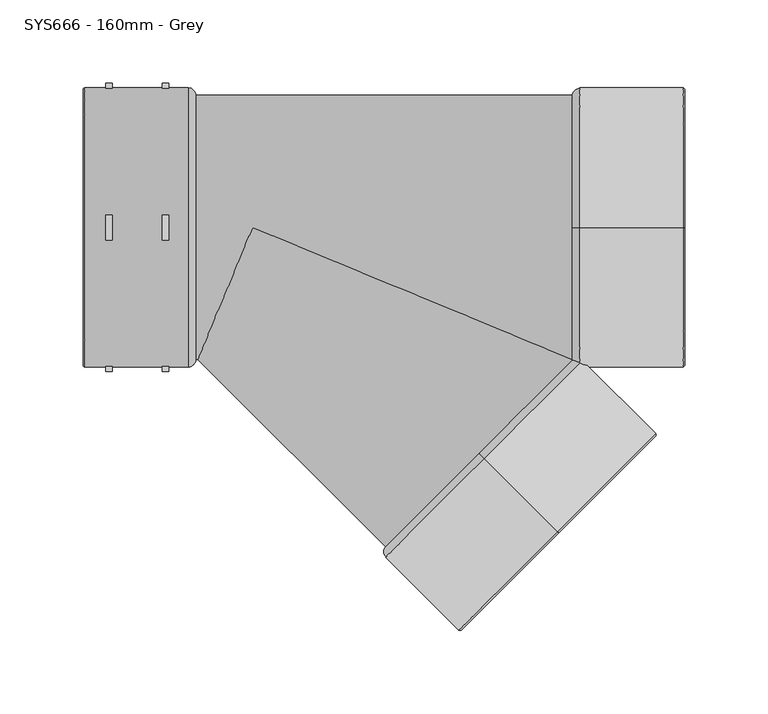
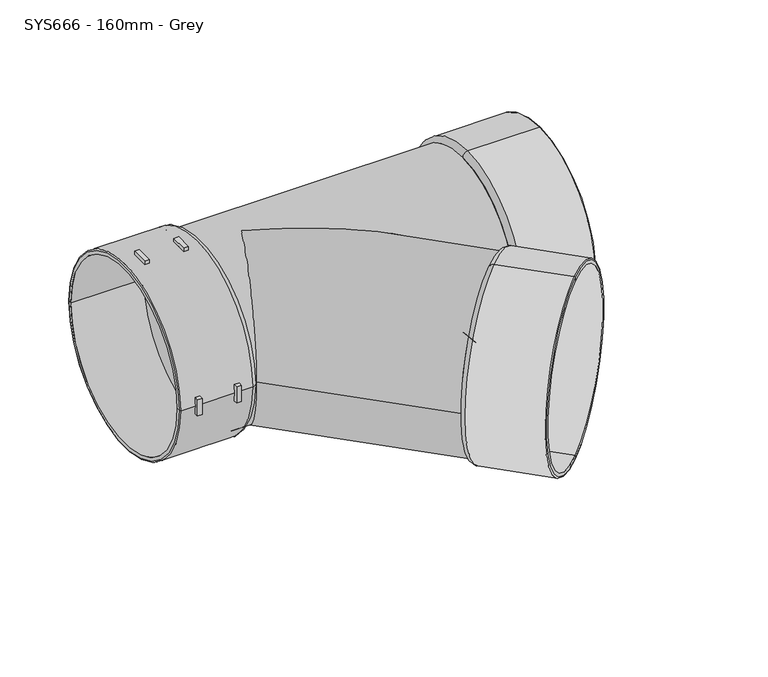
"""IFC4 building model written with IfcOpenShell, lengths in millimetres: pipe fitting geometry, MarleyPlumbingAndDrainage_PipeFitting_EqualBranch45 : SYS666 - 160mm - Grey."""

from ifc_helpers import new_model, si_unit, point, frame, origin, origin_2d, place, context, project, spatial, polyline, circle_curve, ellipse_curve, trimmed, segment, composite_curve, outline, extrude, source, transform, mapped, element, save
from ifc_brep_helpers import plane_surface, cylinder_surface, revolved_surface, advanced_brep


def sys666_160mm_grey_06b153c9(model_context):
    return source(origin(), model_context, "Body", "SolidModel", [
        advanced_brep(
        [(169.1638026, -183.9891845, -80.15), (169.1638026, -183.9891845, 80.15), (169.1638026, -183.9891845, 82.9626013), (169.1638026, -183.9891845, -82.9626013), (124.4746541, -139.3000359, -80.15), (124.4746541, -139.3000359, 80.15), (124.4746541, -139.3000359, 0.0), (121.2926736, -136.1180554, -79.5), (121.2926736, -136.1180554, 79.5), (121.2926736, -136.1180554, 0.0), (168.430251, -183.2556328, -84.0), (168.430251, -183.2556328, 84.0), (124.4746541, -139.3000359, 84.0), (124.4746541, -139.3000359, -84.0)],
        [
            (0, 1, circle_curve(frame((169.1638026, -183.9891845, 0.0), z_axis=(-0.7071067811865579, 0.7071067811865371, 0.0), x_axis=(0.0, 0.0, 1.0)), 80.15)),
            (1, 2),
            (2, 3, circle_curve(frame((169.1638026, -183.9891845, 0.0), z_axis=(0.7071067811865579, -0.7071067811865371, 0.0), x_axis=(0.0, 0.0, 1.0)), 82.9626013)),
            (3, 0),
            (1, 0, circle_curve(frame((169.1638026, -183.9891845, 0.0), z_axis=(-0.7071067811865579, 0.7071067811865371, 0.0), x_axis=(0.0, 0.0, 1.0)), 80.15)),
            (3, 2, circle_curve(frame((169.1638026, -183.9891845, 0.0), z_axis=(0.7071067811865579, -0.7071067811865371, 0.0), x_axis=(0.0, 0.0, 1.0)), 82.9626013)),
            (4, 5, circle_curve(frame((124.4746541, -139.3000359, 0.0), z_axis=(-0.7071067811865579, 0.7071067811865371, 0.0), x_axis=(0.0, 0.0, 1.0)), 80.15)),
            (5, 1),
            (0, 4),
            (5, 4, circle_curve(frame((124.4746541, -139.3000359, 0.0), z_axis=(-0.7071067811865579, 0.7071067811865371, 0.0), x_axis=(0.0, 0.0, 1.0)), 80.15)),
            (6, 5),
            (4, 6),
            (7, 8, circle_curve(frame((121.2926736, -136.1180554, 0.0), z_axis=(-0.7071067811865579, 0.7071067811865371, 0.0), x_axis=(0.0, 0.0, 1.0)), 79.5)),
            (8, 9),
            (9, 7),
            (8, 7, circle_curve(frame((121.2926736, -136.1180554, 0.0), z_axis=(-0.7071067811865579, 0.7071067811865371, 0.0), x_axis=(0.0, 0.0, 1.0)), 79.5)),
            (10, 11, circle_curve(frame((168.430251, -183.2556328, 0.0), z_axis=(-0.7071067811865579, 0.7071067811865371, 0.0), x_axis=(0.0, 0.0, 1.0)), 84.0)),
            (11, 12),
            (12, 13, circle_curve(frame((124.4746541, -139.3000359, 0.0), z_axis=(0.7071067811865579, -0.7071067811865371, 0.0), x_axis=(0.0, 0.0, 1.0)), 84.0)),
            (13, 10),
            (11, 10, circle_curve(frame((168.430251, -183.2556328, 0.0), z_axis=(-0.7071067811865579, 0.7071067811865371, 0.0), x_axis=(0.0, 0.0, 1.0)), 84.0)),
            (13, 12, circle_curve(frame((124.4746541, -139.3000359, 0.0), z_axis=(0.7071067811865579, -0.7071067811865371, 0.0), x_axis=(0.0, 0.0, 1.0)), 84.0)),
            (2, 11, circle_curve(frame((168.430251, -183.2556328, 82.9626013), z_axis=(-0.7071067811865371, -0.7071067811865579, 0.0), x_axis=(0.0, 0.0, 1.0)), 1.0373987)),
            (10, 3, circle_curve(frame((168.430251, -183.2556328, -82.9626013), z_axis=(-0.7071067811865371, -0.7071067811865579, 0.0), x_axis=(0.0, 0.0, -1.0)), 1.0373987)),
            (12, 8, circle_curve(frame((124.4746541, -139.3000359, 79.5), z_axis=(-0.7071067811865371, -0.7071067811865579, 0.0), x_axis=(0.0, 0.0, 1.0)), 4.5)),
            (7, 13, circle_curve(frame((124.4746541, -139.3000359, -79.5), z_axis=(-0.7071067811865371, -0.7071067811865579, 0.0), x_axis=(0.0, 0.0, -1.0)), 4.5)),
        ],
        [
            plane_surface(frame((169.1638026, -183.9891845, 0.0), z_axis=(0.7071067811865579, -0.7071067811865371, 0.0), x_axis=(0.0, 0.0, 1.0))),
            revolved_surface(polyline([(169.1638025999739, -183.9891845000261, 80.15), (124.47465404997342, -139.300035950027, 80.15)]), (1956.2441123, -1971.0694942, 0.0), (0.7071067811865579, -0.7071067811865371, 0.0)),
            plane_surface(frame((124.4746541, -139.3000359, 0.0), z_axis=(0.7071067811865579, -0.7071067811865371, 0.0), x_axis=(0.0, 0.0, 1.0))),
            plane_surface(frame((121.2926736, -136.1180554, 0.0), z_axis=(-0.7071067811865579, 0.7071067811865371, 0.0), x_axis=(0.0, 0.0, 1.0))),
            cylinder_surface(frame((1956.2441123, -1971.0694942, 0.0), z_axis=(0.7071067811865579, -0.7071067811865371, 0.0), x_axis=(0.0, 0.0, 1.0)), 84.0),
            revolved_surface(trimmed(ellipse_curve(frame((168.430251, -183.2556328, 82.9626013), z_axis=(0.7071067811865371, 0.7071067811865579, 0.0), x_axis=(0.0, 0.0, 1.0)), 1.0373987, 1.0373987), [point((168.430251, -183.2556328, 84.0))], [point((169.1638026, -183.9891845, 82.9626013))], True, "CARTESIAN"), (1956.2441123, -1971.0694942, 0.0), (0.7071067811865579, -0.7071067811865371, 0.0)),
            revolved_surface(trimmed(ellipse_curve(frame((124.4746541, -139.3000359, 79.5), z_axis=(0.7071067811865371, 0.7071067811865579, 0.0), x_axis=(0.0, 0.0, 1.0)), 4.5, 4.5), [point((121.2926736, -136.1180554, 79.5))], [point((124.4746541, -139.3000359, 84.0))], True, "CARTESIAN"), (1956.2441123, -1971.0694942, 0.0), (0.7071067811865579, -0.7071067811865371, 0.0)),
        ],
        [
            (0, [[1, 2, 3, 4]]),
            (0, [[5, -4, 6, -2]]),
            (1, [[7, 8, -1, 9]]),
            (1, [[10, -9, -5, -8]]),
            (2, [[11, -7, 12]]),
            (2, [[-12, -10, -11]]),
            (3, [[13, 14, 15]]),
            (3, [[16, -15, -14]]),
            (4, [[17, 18, 19, 20]]),
            (4, [[21, -20, 22, -18]]),
            (5, [[-3, 23, -17, 24]]),
            (5, [[-6, -24, -21, -23]]),
            (6, [[-19, 25, -13, 26]]),
            (6, [[-22, -26, -16, -25]]),
        ],
    ),
        advanced_brep(
        [(245.1746182, 0.0, 80.15), (245.1746182, 0.0, -80.15), (245.1746182, 0.0, -82.9626013), (245.1746182, 0.0, 82.9626013), (181.9746182, 0.0, 80.15), (181.9746182, 0.0, -80.15), (181.9746182, 0.0, 0.0), (177.4746182, 0.0, 79.5), (177.4746182, 0.0, -79.5), (177.4746182, 0.0, 0.0), (244.1372195, 0.0, 84.0), (244.1372195, 0.0, -84.0), (181.9746182, 0.0, -84.0), (181.9746182, 0.0, 84.0)],
        [
            (0, 1, circle_curve(frame((245.1746182, 0.0, 0.0), z_axis=(-1.0, 0.0, 0.0), x_axis=(0.0, 0.0, -1.0)), 80.15)),
            (1, 2),
            (2, 3, circle_curve(frame((245.1746182, 0.0, 0.0), z_axis=(1.0, 0.0, 0.0), x_axis=(0.0, 0.0, -1.0)), 82.9626013)),
            (3, 0),
            (1, 0, circle_curve(frame((245.1746182, 0.0, 0.0), z_axis=(-1.0, 0.0, 0.0), x_axis=(0.0, 0.0, -1.0)), 80.15)),
            (3, 2, circle_curve(frame((245.1746182, 0.0, 0.0), z_axis=(1.0, 0.0, 0.0), x_axis=(0.0, 0.0, -1.0)), 82.9626013)),
            (4, 5, circle_curve(frame((181.9746182, 0.0, 0.0), z_axis=(-1.0, 0.0, 0.0), x_axis=(0.0, 0.0, -1.0)), 80.15)),
            (5, 1),
            (0, 4),
            (5, 4, circle_curve(frame((181.9746182, 0.0, 0.0), z_axis=(-1.0, 0.0, 0.0), x_axis=(0.0, 0.0, -1.0)), 80.15)),
            (6, 5),
            (4, 6),
            (7, 8, circle_curve(frame((177.4746182, 0.0, 0.0), z_axis=(-1.0, 0.0, 0.0), x_axis=(0.0, 0.0, -1.0)), 79.5)),
            (8, 9),
            (9, 7),
            (8, 7, circle_curve(frame((177.4746182, 0.0, 0.0), z_axis=(-1.0, 0.0, 0.0), x_axis=(0.0, 0.0, -1.0)), 79.5)),
            (10, 11, circle_curve(frame((244.1372195, 0.0, 0.0), z_axis=(-1.0, 0.0, 0.0), x_axis=(0.0, 0.0, -1.0)), 84.0)),
            (11, 12),
            (12, 13, circle_curve(frame((181.9746182, 0.0, 0.0), z_axis=(1.0, 0.0, 0.0), x_axis=(0.0, 0.0, -1.0)), 84.0)),
            (13, 10),
            (11, 10, circle_curve(frame((244.1372195, 0.0, 0.0), z_axis=(-1.0, 0.0, 0.0), x_axis=(0.0, 0.0, -1.0)), 84.0)),
            (13, 12, circle_curve(frame((181.9746182, 0.0, 0.0), z_axis=(1.0, 0.0, 0.0), x_axis=(0.0, 0.0, -1.0)), 84.0)),
            (2, 11, circle_curve(frame((244.1372195, 0.0, -82.9626013), z_axis=(0.0, 1.0, 0.0), x_axis=(0.0, 0.0, -1.0)), 1.0373987)),
            (10, 3, circle_curve(frame((244.1372195, 0.0, 82.9626013), z_axis=(0.0, 1.0, 0.0), x_axis=(0.0, 0.0, 1.0)), 1.0373987)),
            (12, 8, circle_curve(frame((181.9746182, 0.0, -79.5), z_axis=(0.0, 1.0, 0.0), x_axis=(0.0, 0.0, -1.0)), 4.5)),
            (7, 13, circle_curve(frame((181.9746182, 0.0, 79.5), z_axis=(0.0, 1.0, 0.0), x_axis=(0.0, 0.0, 1.0)), 4.5)),
        ],
        [
            plane_surface(frame((245.1746182, 0.0, 0.0), z_axis=(1.0, 0.0, 0.0), x_axis=(0.0, 0.0, -1.0))),
            revolved_surface(polyline([(245.17461820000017, 0.0, -80.15), (181.9746181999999, 0.0, -80.15)]), (2772.4878292, 0.0, 0.0), (1.0, 0.0, 0.0)),
            plane_surface(frame((181.9746182, 0.0, 0.0), z_axis=(1.0, 0.0, 0.0), x_axis=(0.0, 0.0, -1.0))),
            plane_surface(frame((177.4746182, 0.0, 0.0), z_axis=(-1.0, 0.0, 0.0), x_axis=(0.0, 0.0, -1.0))),
            cylinder_surface(frame((2772.4878292, 0.0, 0.0), z_axis=(1.0, 0.0, 0.0), x_axis=(0.0, 0.0, -1.0)), 84.0),
            revolved_surface(trimmed(ellipse_curve(frame((244.1372195, 0.0, -82.9626013), z_axis=(0.0, -1.0, 0.0), x_axis=(0.0, 0.0, -1.0)), 1.0373987, 1.0373987), [point((244.1372195, 0.0, -84.0))], [point((245.1746182, 0.0, -82.9626013))], True, "CARTESIAN"), (2772.4878292, 0.0, 0.0), (1.0, 0.0, 0.0)),
            revolved_surface(trimmed(ellipse_curve(frame((181.9746182, 0.0, -79.5), z_axis=(0.0, -1.0, 0.0), x_axis=(0.0, 0.0, -1.0)), 4.5, 4.5), [point((177.4746182, 0.0, -79.5))], [point((181.9746182, 0.0, -84.0))], True, "CARTESIAN"), (2772.4878292, 0.0, 0.0), (1.0, 0.0, 0.0)),
        ],
        [
            (0, [[1, 2, 3, 4]]),
            (0, [[5, -4, 6, -2]]),
            (1, [[7, 8, -1, 9]]),
            (1, [[10, -9, -5, -8]]),
            (2, [[11, -7, 12]]),
            (2, [[-12, -10, -11]]),
            (3, [[13, 14, 15]]),
            (3, [[16, -15, -14]]),
            (4, [[17, 18, 19, 20]]),
            (4, [[21, -20, 22, -18]]),
            (5, [[-3, 23, -17, 24]]),
            (5, [[-6, -24, -21, -23]]),
            (6, [[-19, 25, -13, 26]]),
            (6, [[-22, -26, -16, -25]]),
        ],
    ),
        extrude(outline(composite_curve([segment(trimmed(circle_curve(origin_2d(), 84.0), [point((83.6645086, -7.5))], [point((83.6645086, 7.5))], True, "CARTESIAN"), True, "CONTINUOUS"), segment(polyline([(83.6645086, 7.5), (86.8768669, 7.5)]), True, "CONTINUOUS"), segment(trimmed(circle_curve(origin_2d(), 87.2), [point((86.8768669, 7.5))], [point((86.8768669, -7.5))], False, "CARTESIAN"), True, "CONTINUOUS"), segment(polyline([(86.8768669, -7.5), (83.6645086, -7.5)]), True, "CONTINUOUS")], self_intersect=False)), frame((-69.170272, 0.0, 0.0), z_axis=(1.0, 0.0, 0.0), x_axis=(0.0, 1.0, 0.0)), (0.0, 0.0, 1.0), 4.0),
        extrude(outline(composite_curve([segment(polyline([(7.5, -83.6645086), (7.5, -86.8768669)]), True, "CONTINUOUS"), segment(trimmed(circle_curve(origin_2d(), 87.2), [point((7.5, -86.8768669))], [point((-7.5, -86.8768669))], False, "CARTESIAN"), True, "CONTINUOUS"), segment(polyline([(-7.5, -86.8768669), (-7.5, -83.6645086)]), True, "CONTINUOUS"), segment(trimmed(circle_curve(origin_2d(), 84.0), [point((-7.5, -83.6645086))], [point((7.5, -83.6645086))], True, "CARTESIAN"), True, "CONTINUOUS")], self_intersect=False)), frame((-69.170272, 0.0, 0.0), z_axis=(1.0, 0.0, 0.0), x_axis=(0.0, 1.0, 0.0)), (0.0, 0.0, 1.0), 4.0),
        extrude(outline(composite_curve([segment(polyline([(7.5, 86.8768669), (7.5, 83.6645086)]), True, "CONTINUOUS"), segment(trimmed(circle_curve(origin_2d(), 84.0), [point((7.5, 83.6645086))], [point((-7.5, 83.6645086))], True, "CARTESIAN"), True, "CONTINUOUS"), segment(polyline([(-7.5, 83.6645086), (-7.5, 86.8768669)]), True, "CONTINUOUS"), segment(trimmed(circle_curve(origin_2d(), 87.2), [point((-7.5, 86.8768669))], [point((7.5, 86.8768669))], False, "CARTESIAN"), True, "CONTINUOUS")], self_intersect=False)), frame((-69.170272, 0.0, 0.0), z_axis=(1.0, 0.0, 0.0), x_axis=(0.0, 1.0, 0.0)), (0.0, 0.0, 1.0), 4.0),
        extrude(outline(composite_curve([segment(trimmed(circle_curve(origin_2d(), 87.2), [point((-86.8768669, -7.5))], [point((-86.8768669, 7.5))], False, "CARTESIAN"), True, "CONTINUOUS"), segment(polyline([(-86.8768669, 7.5), (-83.6645086, 7.5)]), True, "CONTINUOUS"), segment(trimmed(circle_curve(origin_2d(), 84.0), [point((-83.6645086, 7.5))], [point((-83.6645086, -7.5))], True, "CARTESIAN"), True, "CONTINUOUS"), segment(polyline([(-83.6645086, -7.5), (-86.8768669, -7.5)]), True, "CONTINUOUS")], self_intersect=False)), frame((-69.170272, 0.0, 0.0), z_axis=(1.0, 0.0, 0.0), x_axis=(0.0, 1.0, 0.0)), (0.0, 0.0, 1.0), 4.0),
        extrude(outline(composite_curve([segment(trimmed(circle_curve(origin_2d(), 84.0), [point((-7.5, -83.6645086))], [point((7.5, -83.6645086))], True, "CARTESIAN"), True, "CONTINUOUS"), segment(polyline([(7.5, -83.6645086), (7.5, -86.8768669)]), True, "CONTINUOUS"), segment(trimmed(circle_curve(origin_2d(), 87.2), [point((7.5, -86.8768669))], [point((-7.5, -86.8768669))], False, "CARTESIAN"), True, "CONTINUOUS"), segment(polyline([(-7.5, -86.8768669), (-7.5, -83.6645086)]), True, "CONTINUOUS")], self_intersect=False)), frame((-103.170272, 0.0, 0.0), z_axis=(1.0, 0.0, 0.0), x_axis=(0.0, 1.0, 0.0)), (0.0, 0.0, 1.0), 4.0),
        extrude(outline(composite_curve([segment(trimmed(circle_curve(origin_2d(), 87.2), [point((-7.5, 86.8768669))], [point((7.5, 86.8768669))], False, "CARTESIAN"), True, "CONTINUOUS"), segment(polyline([(7.5, 86.8768669), (7.5, 83.6645086)]), True, "CONTINUOUS"), segment(trimmed(circle_curve(origin_2d(), 84.0), [point((7.5, 83.6645086))], [point((-7.5, 83.6645086))], True, "CARTESIAN"), True, "CONTINUOUS"), segment(polyline([(-7.5, 83.6645086), (-7.5, 86.8768669)]), True, "CONTINUOUS")], self_intersect=False)), frame((-103.170272, 0.0, 0.0), z_axis=(1.0, 0.0, 0.0), x_axis=(0.0, 1.0, 0.0)), (0.0, 0.0, 1.0), 4.0),
        extrude(outline(composite_curve([segment(trimmed(circle_curve(origin_2d(), 87.2), [point((-86.8768669, -7.5))], [point((-86.8768669, 7.5))], False, "CARTESIAN"), True, "CONTINUOUS"), segment(polyline([(-86.8768669, 7.5), (-83.6645086, 7.5)]), True, "CONTINUOUS"), segment(trimmed(circle_curve(origin_2d(), 84.0), [point((-83.6645086, 7.5))], [point((-83.6645086, -7.5))], True, "CARTESIAN"), True, "CONTINUOUS"), segment(polyline([(-83.6645086, -7.5), (-86.8768669, -7.5)]), True, "CONTINUOUS")], self_intersect=False)), frame((-103.170272, 0.0, 0.0), z_axis=(1.0, 0.0, 0.0), x_axis=(0.0, 1.0, 0.0)), (0.0, 0.0, 1.0), 4.0),
        extrude(outline(composite_curve([segment(trimmed(circle_curve(origin_2d(), 84.0), [point((83.6645086, -7.5))], [point((83.6645086, 7.5))], True, "CARTESIAN"), True, "CONTINUOUS"), segment(polyline([(83.6645086, 7.5), (86.8768669, 7.5)]), True, "CONTINUOUS"), segment(trimmed(circle_curve(origin_2d(), 87.2), [point((86.8768669, 7.5))], [point((86.8768669, -7.5))], False, "CARTESIAN"), True, "CONTINUOUS"), segment(polyline([(86.8768669, -7.5), (83.6645086, -7.5)]), True, "CONTINUOUS")], self_intersect=False)), frame((-103.170272, 0.0, 0.0), z_axis=(1.0, 0.0, 0.0), x_axis=(0.0, 1.0, 0.0)), (0.0, 0.0, 1.0), 4.0),
        advanced_brep(
        [(-116.8253818, -80.15, 0.0), (-116.8253818, 80.15, 0.0), (-116.8253818, 82.9626013, 0.0), (-116.8253818, -82.9626013, 0.0), (-53.6253818, -80.15, 0.0), (-53.6253818, 80.15, 0.0), (-53.6253818, 0.0, 0.0), (-49.1253818, -79.5, 0.0), (-49.1253818, 79.5, 0.0), (-49.1253818, 0.0, 0.0), (-115.7879832, -84.0, 0.0), (-115.7879832, 84.0, 0.0), (-53.6253818, 84.0, 0.0), (-53.6253818, -84.0, 0.0)],
        [
            (0, 1, circle_curve(frame((-116.8253818, 0.0, 0.0), z_axis=(1.0, 0.0, 0.0), x_axis=(0.0, 1.0, 0.0)), 80.15)),
            (1, 2),
            (2, 3, circle_curve(frame((-116.8253818, 0.0, 0.0), z_axis=(-1.0, 0.0, 0.0), x_axis=(0.0, 1.0, 0.0)), 82.9626013)),
            (3, 0),
            (1, 0, circle_curve(frame((-116.8253818, 0.0, 0.0), z_axis=(1.0, 0.0, 0.0), x_axis=(0.0, 1.0, 0.0)), 80.15)),
            (3, 2, circle_curve(frame((-116.8253818, 0.0, 0.0), z_axis=(-1.0, 0.0, 0.0), x_axis=(0.0, 1.0, 0.0)), 82.9626013)),
            (4, 5, circle_curve(frame((-53.6253818, 0.0, 0.0), z_axis=(1.0, 0.0, 0.0), x_axis=(0.0, 1.0, 0.0)), 80.15)),
            (5, 1),
            (0, 4),
            (5, 4, circle_curve(frame((-53.6253818, 0.0, 0.0), z_axis=(1.0, 0.0, 0.0), x_axis=(0.0, 1.0, 0.0)), 80.15)),
            (6, 5),
            (4, 6),
            (7, 8, circle_curve(frame((-49.1253818, 0.0, 0.0), z_axis=(1.0, 0.0, 0.0), x_axis=(0.0, 1.0, 0.0)), 79.5)),
            (8, 9),
            (9, 7),
            (8, 7, circle_curve(frame((-49.1253818, 0.0, 0.0), z_axis=(1.0, 0.0, 0.0), x_axis=(0.0, 1.0, 0.0)), 79.5)),
            (10, 11, circle_curve(frame((-115.7879832, 0.0, 0.0), z_axis=(1.0, 0.0, 0.0), x_axis=(0.0, 1.0, 0.0)), 84.0)),
            (11, 12),
            (12, 13, circle_curve(frame((-53.6253818, 0.0, 0.0), z_axis=(-1.0, 0.0, 0.0), x_axis=(0.0, 1.0, 0.0)), 84.0)),
            (13, 10),
            (11, 10, circle_curve(frame((-115.7879832, 0.0, 0.0), z_axis=(1.0, 0.0, 0.0), x_axis=(0.0, 1.0, 0.0)), 84.0)),
            (13, 12, circle_curve(frame((-53.6253818, 0.0, 0.0), z_axis=(-1.0, 0.0, 0.0), x_axis=(0.0, 1.0, 0.0)), 84.0)),
            (2, 11, circle_curve(frame((-115.7879832, 82.9626013, 0.0), z_axis=(0.0, 0.0, -1.0), x_axis=(0.0, 1.0, 0.0)), 1.0373987)),
            (10, 3, circle_curve(frame((-115.7879832, -82.9626013, 0.0), z_axis=(0.0, 0.0, -1.0), x_axis=(0.0, -1.0, 0.0)), 1.0373987)),
            (12, 8, circle_curve(frame((-53.6253818, 79.5, 0.0), z_axis=(0.0, 0.0, -1.0), x_axis=(0.0, 1.0, 0.0)), 4.5)),
            (7, 13, circle_curve(frame((-53.6253818, -79.5, 0.0), z_axis=(0.0, 0.0, -1.0), x_axis=(0.0, -1.0, 0.0)), 4.5)),
        ],
        [
            plane_surface(frame((-116.8253818, 0.0, 0.0), z_axis=(-1.0, 0.0, 0.0), x_axis=(0.0, 1.0, 0.0))),
            revolved_surface(polyline([(-116.82538179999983, 80.15, 0.0), (-53.625381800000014, 80.15, 0.0)]), (-2644.1385928, 0.0, 0.0), (-1.0, 0.0, 0.0)),
            plane_surface(frame((-53.6253818, 0.0, 0.0), z_axis=(-1.0, 0.0, 0.0), x_axis=(0.0, 1.0, 0.0))),
            plane_surface(frame((-49.1253818, 0.0, 0.0), z_axis=(1.0, 0.0, 0.0), x_axis=(0.0, 1.0, 0.0))),
            cylinder_surface(frame((-2644.1385928, 0.0, 0.0), z_axis=(-1.0, 0.0, 0.0), x_axis=(0.0, 1.0, 0.0)), 84.0),
            revolved_surface(trimmed(ellipse_curve(frame((-115.7879832, 82.9626013, 0.0), z_axis=(0.0, 0.0, 1.0), x_axis=(0.0, 1.0, 0.0)), 1.0373987, 1.0373987), [point((-115.7879832, 84.0, 0.0))], [point((-116.8253818, 82.9626013, 0.0))], True, "CARTESIAN"), (-2644.1385928, 0.0, 0.0), (-1.0, 0.0, 0.0)),
            revolved_surface(trimmed(ellipse_curve(frame((-53.6253818, 79.5, 0.0), z_axis=(0.0, 0.0, 1.0), x_axis=(0.0, 1.0, 0.0)), 4.5, 4.5), [point((-49.1253818, 79.5, 0.0))], [point((-53.6253818, 84.0, 0.0))], True, "CARTESIAN"), (-2644.1385928, 0.0, 0.0), (-1.0, 0.0, 0.0)),
        ],
        [
            (0, [[1, 2, 3, 4]]),
            (0, [[5, -4, 6, -2]]),
            (1, [[7, 8, -1, 9]]),
            (1, [[10, -9, -5, -8]]),
            (2, [[11, -7, 12]]),
            (2, [[-12, -10, -11]]),
            (3, [[13, 14, 15]]),
            (3, [[16, -15, -14]]),
            (4, [[17, 18, 19, 20]]),
            (4, [[21, -20, 22, -18]]),
            (5, [[-3, 23, -17, 24]]),
            (5, [[-6, -24, -21, -23]]),
            (6, [[-19, 25, -13, 26]]),
            (6, [[-22, -26, -16, -25]]),
        ],
    ),
        advanced_brep(
        [(177.4746182, -79.5, 0.0), (177.4746182, 79.5, 0.0), (177.4746182, 0.0, 0.0), (177.1045964, -79.5, 0.0), (-14.8253818, 0.0, -79.5), (-47.75536, -79.5, 0.0), (-49.1253818, -79.5, 0.0), (-49.1253818, 79.5, 0.0), (-14.8253818, 0.0, 79.5), (65.0776845, -192.3330445, 0.0), (177.5076627, -79.9030663, 0.0), (-49.1253818, -78.1299782, 0.0), (-49.1253818, -34.3, 0.0), (-49.1253818, 0.0, 0.0)],
        [
            (0, 1, circle_curve(frame((177.4746182, 0.0, 0.0), z_axis=(1.0, 0.0, 0.0), x_axis=(0.0, 1.0, 0.0)), 79.5)),
            (1, 2),
            (2, 0),
            (1, 0, circle_curve(frame((177.4746182, 0.0, 0.0), z_axis=(1.0, 0.0, 0.0), x_axis=(0.0, 1.0, 0.0)), 79.5)),
            (0, 3),
            (3, 4, ellipse_curve(frame((-14.8253818, 0.0, 0.0), z_axis=(0.3826834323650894, 0.923879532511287, 0.0), x_axis=(-0.923879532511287, 0.38268343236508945, 0.0)), 207.7435114, 79.5)),
            (4, 5, ellipse_curve(frame((-14.8253818, 0.0, 0.0), z_axis=(-0.923879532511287, 0.3826834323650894, 0.0), x_axis=(-0.3826834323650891, -0.9238795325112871, 0.0)), 86.0501799, 79.5)),
            (5, 6),
            (6, 7, circle_curve(frame((-49.1253818, 0.0, 0.0), z_axis=(1.0, 0.0, 0.0), x_axis=(0.0, 1.0, 0.0)), 79.5)),
            (7, 1),
            (7, 6, circle_curve(frame((-49.1253818, 0.0, 0.0), z_axis=(1.0, 0.0, 0.0), x_axis=(0.0, 1.0, 0.0)), 79.5)),
            (5, 8, ellipse_curve(frame((-14.8253818, 0.0, 0.0), z_axis=(-0.923879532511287, 0.3826834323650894, 0.0), x_axis=(-0.3826834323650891, -0.9238795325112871, 0.0)), 86.0501799, 79.5)),
            (8, 3, ellipse_curve(frame((-14.8253818, 0.0, 0.0), z_axis=(0.3826834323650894, 0.923879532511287, 0.0), x_axis=(-0.923879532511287, 0.38268343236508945, 0.0)), 207.7435114, 79.5)),
            (9, 10, circle_curve(frame((121.2926736, -136.1180554, 0.0), z_axis=(0.7071067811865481, -0.7071067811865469, 0.0), x_axis=(0.7071067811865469, 0.7071067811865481, 0.0)), 79.5)),
            (10, 9, circle_curve(frame((121.2926736, -136.1180554, 0.0), z_axis=(0.7071067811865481, -0.7071067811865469, 0.0), x_axis=(0.7071067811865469, 0.7071067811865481, 0.0)), 79.5)),
            (10, 3),
            (5, 9),
            (11, 12),
            (12, 13),
            (13, 7),
            (6, 11),
        ],
        [
            plane_surface(frame((177.4746182, 0.0, 0.0), z_axis=(1.0, 0.0, 0.0), x_axis=(0.0, 1.0, 0.0))),
            cylinder_surface(frame((2070.0, 0.0, 0.0), z_axis=(-1.0, 0.0, 0.0), x_axis=(0.0, 1.0, 0.0)), 79.5),
            plane_surface(frame((121.2926736, -136.1180554, 0.0), z_axis=(0.7071067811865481, -0.7071067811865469, 0.0), x_axis=(0.0, 0.0, 1.0))),
            cylinder_surface(frame((-14.8253818, 0.0, 0.0), z_axis=(-0.7071067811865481, 0.7071067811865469, 0.0), x_axis=(0.7071067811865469, 0.7071067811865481, 0.0)), 79.5),
            plane_surface(frame((-49.1253818, 0.0, 0.0), z_axis=(-1.0, 0.0, 0.0), x_axis=(0.0, 1.0, 0.0))),
        ],
        [
            (0, [[1, 2, 3]]),
            (0, [[-2, 4, -3]]),
            (1, [[-1, 5, 6, 7, 8, 9, 10]]),
            (1, [[-4, -10, 11, -8, 12, 13, -5]]),
            (2, [[14, 15]]),
            (3, [[-15, 16, -13, -12, 17]]),
            (3, [[-14, -17, -7, -6, -16]]),
            (4, [[18, 19, 20, -9, 21]]),
            (4, [[-18, -21, -11, -20, -19]]),
        ],
    ),
    ])


if __name__ == "__main__":
    model = new_model("IFC4")
    model_context = context("Model", 3, world=origin())
    ifc_project = project(units=[si_unit("LENGTHUNIT", "METRE", prefix="MILLI")], contexts=[model_context])
    site = spatial("IfcSite", under=ifc_project)
    building = spatial("IfcBuilding", under=site)
    placement = place(None, origin())
    sys666_160mm_grey_shape = sys666_160mm_grey_06b153c9(model_context)
    element("IfcPipeFitting", 1, ObjectType="MarleyPlumbingAndDrainage_PipeFitting_EqualBranch45 : SYS666 - 160mm - Grey", at=placement, inside=building, context=model_context, shape_type="MappedRepresentation", body=[
        mapped(sys666_160mm_grey_shape, transform((0.0, 0.0, 0.0), x_axis=(1.0, 0.0, 0.0), y_axis=(0.0, 1.0, 0.0), z_axis=(0.0, 0.0, 1.0))),
    ])
    save(model, "model.ifc")
